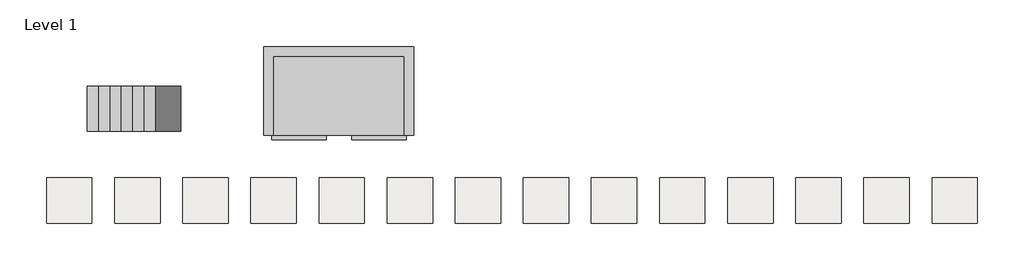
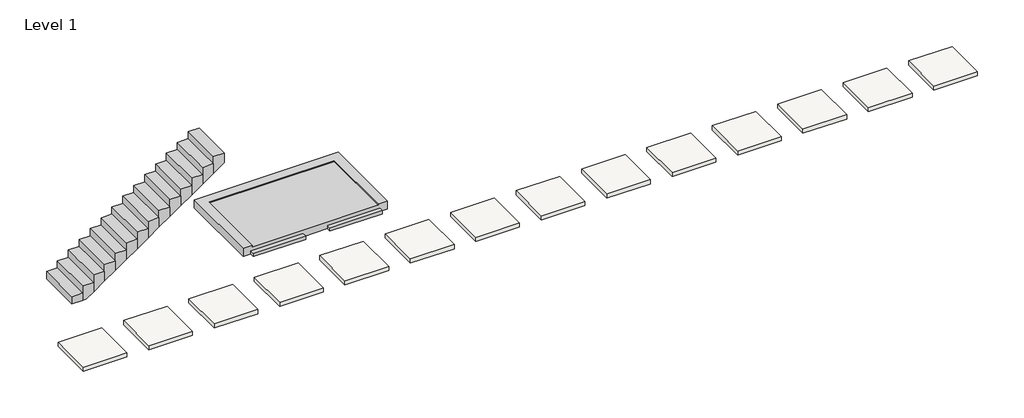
# One storey: 14 slabs, 1 proxy, 1 stair flight.
"""IFC4 building model written with IfcOpenShell, lengths in millimetres."""

from ifc_helpers import new_model, si_unit, frame, origin, place, context, project, spatial, polyline, outline, extrude, faceted_brep, transform, mapped, element, save
from components import proxy_300_24_isr_concrete_platform_double_platform_9cdc8692

model = new_model("IFC4")

# Units and contexts
model_context = context("Model", 3, world=origin())
ifc_project = project(units=[si_unit("LENGTHUNIT", "METRE", prefix="MILLI")], contexts=[model_context])

# Site, building, storey
site = spatial("IfcSite", under=ifc_project)
building = spatial("IfcBuilding", under=site)
storey = spatial("IfcBuildingStorey", under=building, Name="Level 1", Elevation=0.0)

# Proxy
placement = place(None, origin())
proxy_300_24_isr_concrete_platform_double_platform_shape = proxy_300_24_isr_concrete_platform_double_platform_9cdc8692(model_context)
element("IfcBuildingElementProxy", 1, Name="300_24_ISR_concrete_platform : double platform", ObjectType="300_24_ISR_concrete_platform : double platform", at=placement, inside=storey, context=model_context, shape_type="MappedRepresentation", body=[
    mapped(proxy_300_24_isr_concrete_platform_double_platform_shape, transform((-652.5441241, 2827.5413771, 0.0), x_axis=(1.0, 0.0, 0.0), y_axis=(0.0, 1.0, 0.0), z_axis=(0.0, 0.0, 1.0))),
])

# Slabs
element("IfcSlab", 2, ObjectType="Generic 100mm", at=placement, inside=storey, context=model_context, shape_type="SweptSolid", body=[
    extrude(outline(polyline([(-3088.5953778, 89.4387512), (-3088.5953778, -910.5612488), (-4088.5953778, -910.5612488), (-4088.5953778, 89.4387512), (-3088.5953778, 89.4387512)])), frame((0.0, 0.0, -100.0), z_axis=(0.0, 0.0, 1.0), x_axis=(1.0, 0.0, 0.0)), (0.0, 0.0, 1.0), 100.0),
])
element("IfcSlab", 3, ObjectType="Generic 100mm", at=placement, inside=storey, context=model_context, shape_type="SweptSolid", body=[
    extrude(outline(polyline([(-1588.5953778, 89.4387512), (-1588.5953778, -910.5612488), (-2588.5953778, -910.5612488), (-2588.5953778, 89.4387512), (-1588.5953778, 89.4387512)])), frame((0.0, 0.0, -100.0), z_axis=(0.0, 0.0, 1.0), x_axis=(1.0, 0.0, 0.0)), (0.0, 0.0, 1.0), 100.0),
])
element("IfcSlab", 4, ObjectType="Generic 100mm", at=placement, inside=storey, context=model_context, shape_type="SweptSolid", body=[
    extrude(outline(polyline([(-88.5953778, 89.4387512), (-88.5953778, -910.5612488), (-1088.5953778, -910.5612488), (-1088.5953778, 89.4387512), (-88.5953778, 89.4387512)])), frame((0.0, 0.0, -100.0), z_axis=(0.0, 0.0, 1.0), x_axis=(1.0, 0.0, 0.0)), (0.0, 0.0, 1.0), 100.0),
])
element("IfcSlab", 5, ObjectType="Generic 100mm", at=placement, inside=storey, context=model_context, shape_type="SweptSolid", body=[
    extrude(outline(polyline([(1411.4046222, 89.4387512), (1411.4046222, -910.5612488), (411.4046222, -910.5612488), (411.4046222, 89.4387512), (1411.4046222, 89.4387512)])), frame((0.0, 0.0, -100.0), z_axis=(0.0, 0.0, 1.0), x_axis=(1.0, 0.0, 0.0)), (0.0, 0.0, 1.0), 100.0),
])
element("IfcSlab", 6, ObjectType="Generic 100mm", at=placement, inside=storey, context=model_context, shape_type="SweptSolid", body=[
    extrude(outline(polyline([(2911.4046222, 89.4387512), (2911.4046222, -910.5612488), (1911.4046222, -910.5612488), (1911.4046222, 89.4387512), (2911.4046222, 89.4387512)])), frame((0.0, 0.0, -100.0), z_axis=(0.0, 0.0, 1.0), x_axis=(1.0, 0.0, 0.0)), (0.0, 0.0, 1.0), 100.0),
])
element("IfcSlab", 7, ObjectType="Generic 100mm", at=placement, inside=storey, context=model_context, shape_type="SweptSolid", body=[
    extrude(outline(polyline([(4411.4046222, 89.4387512), (4411.4046222, -910.5612488), (3411.4046222, -910.5612488), (3411.4046222, 89.4387512), (4411.4046222, 89.4387512)])), frame((0.0, 0.0, -100.0), z_axis=(0.0, 0.0, 1.0), x_axis=(1.0, 0.0, 0.0)), (0.0, 0.0, 1.0), 100.0),
])
element("IfcSlab", 8, ObjectType="Generic 100mm", at=placement, inside=storey, context=model_context, shape_type="SweptSolid", body=[
    extrude(outline(polyline([(5911.4046222, 89.4387512), (5911.4046222, -910.5612488), (4911.4046222, -910.5612488), (4911.4046222, 89.4387512), (5911.4046222, 89.4387512)])), frame((0.0, 0.0, -100.0), z_axis=(0.0, 0.0, 1.0), x_axis=(1.0, 0.0, 0.0)), (0.0, 0.0, 1.0), 100.0),
])
element("IfcSlab", 9, ObjectType="Generic 100mm", at=placement, inside=storey, context=model_context, shape_type="SweptSolid", body=[
    extrude(outline(polyline([(7411.4046222, 89.4387512), (7411.4046222, -910.5612488), (6411.4046222, -910.5612488), (6411.4046222, 89.4387512), (7411.4046222, 89.4387512)])), frame((0.0, 0.0, -100.0), z_axis=(0.0, 0.0, 1.0), x_axis=(1.0, 0.0, 0.0)), (0.0, 0.0, 1.0), 100.0),
])
element("IfcSlab", 10, ObjectType="Generic 100mm", at=placement, inside=storey, context=model_context, shape_type="SweptSolid", body=[
    extrude(outline(polyline([(-4588.5953778, 89.4387512), (-4588.5953778, -910.5612488), (-5588.5953778, -910.5612488), (-5588.5953778, 89.4387512), (-4588.5953778, 89.4387512)])), frame((0.0, 0.0, -100.0), z_axis=(0.0, 0.0, 1.0), x_axis=(1.0, 0.0, 0.0)), (0.0, 0.0, 1.0), 100.0),
])
element("IfcSlab", 11, ObjectType="Generic 100mm", at=placement, inside=storey, context=model_context, shape_type="SweptSolid", body=[
    extrude(outline(polyline([(8911.4046222, 89.4387512), (8911.4046222, -910.5612488), (7911.4046222, -910.5612488), (7911.4046222, 89.4387512), (8911.4046222, 89.4387512)])), frame((0.0, 0.0, -100.0), z_axis=(0.0, 0.0, 1.0), x_axis=(1.0, 0.0, 0.0)), (0.0, 0.0, 1.0), 100.0),
])
element("IfcSlab", 12, ObjectType="Generic 100mm", at=placement, inside=storey, context=model_context, shape_type="SweptSolid", body=[
    extrude(outline(polyline([(10411.4046222, 89.4387512), (10411.4046222, -910.5612488), (9411.4046222, -910.5612488), (9411.4046222, 89.4387512), (10411.4046222, 89.4387512)])), frame((0.0, 0.0, -100.0), z_axis=(0.0, 0.0, 1.0), x_axis=(1.0, 0.0, 0.0)), (0.0, 0.0, 1.0), 100.0),
])
element("IfcSlab", 13, ObjectType="Generic 100mm", at=placement, inside=storey, context=model_context, shape_type="SweptSolid", body=[
    extrude(outline(polyline([(11911.4046222, 89.4387512), (11911.4046222, -910.5612488), (10911.4046222, -910.5612488), (10911.4046222, 89.4387512), (11911.4046222, 89.4387512)])), frame((0.0, 0.0, -100.0), z_axis=(0.0, 0.0, 1.0), x_axis=(1.0, 0.0, 0.0)), (0.0, 0.0, 1.0), 100.0),
])
element("IfcSlab", 14, ObjectType="Generic 100mm", at=placement, inside=storey, context=model_context, shape_type="SweptSolid", body=[
    extrude(outline(polyline([(13411.4046222, 89.4387512), (13411.4046222, -910.5612488), (12411.4046222, -910.5612488), (12411.4046222, 89.4387512), (13411.4046222, 89.4387512)])), frame((0.0, 0.0, -100.0), z_axis=(0.0, 0.0, 1.0), x_axis=(1.0, 0.0, 0.0)), (0.0, 0.0, 1.0), 100.0),
])
element("IfcSlab", 15, ObjectType="Generic 100mm", at=placement, inside=storey, context=model_context, shape_type="SweptSolid", body=[
    extrude(outline(polyline([(14911.4046222, 89.4387512), (14911.4046222, -910.5612488), (13911.4046222, -910.5612488), (13911.4046222, 89.4387512), (14911.4046222, 89.4387512)])), frame((0.0, 0.0, -100.0), z_axis=(0.0, 0.0, 1.0), x_axis=(1.0, 0.0, 0.0)), (0.0, 0.0, 1.0), 100.0),
])

# Stair flight
element("IfcStairFlight", 16, ObjectType="190mm Depth", at=placement, inside=storey, context=model_context, shape_type="Brep", body=[
    faceted_brep([(-4438.5953778, 2107.5413771, 173.9130435), (-4688.5953778, 2107.5413771, 173.9130435), (-4688.5953778, 1107.5413771, 173.9130435), (-4438.5953778, 1107.5413771, 173.9130435), (-4438.5953778, 2107.5413771, 0.0), (-4688.5953778, 2107.5413771, 0.0), (-4688.5953778, 1107.5413771, 0.0), (-4438.5953778, 1107.5413771, 0.0), (-4188.5953778, 2107.5413771, 347.826087), (-4438.5953778, 2107.5413771, 347.826087), (-4438.5953778, 1107.5413771, 347.826087), (-4188.5953778, 1107.5413771, 347.826087), (-4188.5953778, 2107.5413771, 116.3742706), (-4355.8833918, 2107.5413771, 0.0), (-4355.8833918, 1107.5413771, 0.0), (-4188.5953778, 1107.5413771, 116.3742706), (-3938.5953778, 2107.5413771, 521.7391304), (-4188.5953778, 2107.5413771, 521.7391304), (-4188.5953778, 1107.5413771, 521.7391304), (-3938.5953778, 1107.5413771, 521.7391304), (-3938.5953778, 2107.5413771, 290.2873141), (-3938.5953778, 1107.5413771, 290.2873141), (-3688.5953778, 2107.5413771, 695.6521739), (-3938.5953778, 2107.5413771, 695.6521739), (-3938.5953778, 1107.5413771, 695.6521739), (-3688.5953778, 1107.5413771, 695.6521739), (-3688.5953778, 2107.5413771, 464.2003576), (-3688.5953778, 1107.5413771, 464.2003576), (-3438.5953778, 2107.5413771, 869.5652174), (-3688.5953778, 2107.5413771, 869.5652174), (-3688.5953778, 1107.5413771, 869.5652174), (-3438.5953778, 1107.5413771, 869.5652174), (-3438.5953778, 2107.5413771, 638.113401), (-3438.5953778, 1107.5413771, 638.113401), (-3188.5953778, 2107.5413771, 1043.4782609), (-3438.5953778, 2107.5413771, 1043.4782609), (-3438.5953778, 1107.5413771, 1043.4782609), (-3188.5953778, 1107.5413771, 1043.4782609), (-3188.5953778, 2107.5413771, 812.0264445), (-3188.5953778, 1107.5413771, 812.0264445), (-2938.5953778, 2107.5413771, 1217.3913043), (-3188.5953778, 2107.5413771, 1217.3913043), (-3188.5953778, 1107.5413771, 1217.3913043), (-2938.5953778, 1107.5413771, 1217.3913043), (-2938.5953778, 2107.5413771, 985.939488), (-2938.5953778, 1107.5413771, 985.939488), (-2688.5953778, 2107.5413771, 1391.3043478), (-2938.5953778, 2107.5413771, 1391.3043478), (-2938.5953778, 1107.5413771, 1391.3043478), (-2688.5953778, 1107.5413771, 1391.3043478), (-2688.5953778, 2107.5413771, 1159.8525315), (-2688.5953778, 1107.5413771, 1159.8525315), (-2438.5953778, 2107.5413771, 1565.2173913), (-2688.5953778, 2107.5413771, 1565.2173913), (-2688.5953778, 1107.5413771, 1565.2173913), (-2438.5953778, 1107.5413771, 1565.2173913), (-2438.5953778, 2107.5413771, 1333.765575), (-2438.5953778, 1107.5413771, 1333.765575), (-2188.5953778, 2107.5413771, 1739.1304348), (-2438.5953778, 2107.5413771, 1739.1304348), (-2438.5953778, 1107.5413771, 1739.1304348), (-2188.5953778, 1107.5413771, 1739.1304348), (-2188.5953778, 2107.5413771, 1507.6786184), (-2188.5953778, 1107.5413771, 1507.6786184), (-1938.5953778, 2107.5413771, 1913.0434783), (-2188.5953778, 2107.5413771, 1913.0434783), (-2188.5953778, 1107.5413771, 1913.0434783), (-1938.5953778, 1107.5413771, 1913.0434783), (-1938.5953778, 2107.5413771, 1681.5916619), (-1938.5953778, 1107.5413771, 1681.5916619), (-1688.5953778, 2107.5413771, 2086.9565217), (-1938.5953778, 2107.5413771, 2086.9565217), (-1938.5953778, 1107.5413771, 2086.9565217), (-1688.5953778, 1107.5413771, 2086.9565217), (-1688.5953778, 2107.5413771, 1855.5047054), (-1688.5953778, 1107.5413771, 1855.5047054), (-1438.5953778, 2107.5413771, 2260.8695652), (-1688.5953778, 2107.5413771, 2260.8695652), (-1688.5953778, 1107.5413771, 2260.8695652), (-1438.5953778, 1107.5413771, 2260.8695652), (-1438.5953778, 2107.5413771, 2029.4177489), (-1438.5953778, 1107.5413771, 2029.4177489), (-1188.5953778, 2107.5413771, 2203.3307924), (-1188.5953778, 1107.5413771, 2203.3307924), (-1188.5953778, 2107.5413771, 2434.7826087), (-1438.5953778, 2107.5413771, 2434.7826087), (-1438.5953778, 1107.5413771, 2434.7826087), (-1188.5953778, 1107.5413771, 2434.7826087)], [[[0, 1, 2, 3]], [[1, 0, 4, 5]], [[2, 1, 5, 6]], [[3, 2, 6, 7]], [[8, 9, 10, 11]], [[4, 0, 9, 8, 12, 13]], [[0, 3, 10, 9]], [[3, 7, 14, 15, 11, 10]], [[16, 17, 18, 19]], [[17, 16, 20, 12, 8]], [[8, 11, 18, 17]], [[19, 18, 11, 15, 21]], [[22, 23, 24, 25]], [[23, 22, 26, 20, 16]], [[16, 19, 24, 23]], [[25, 24, 19, 21, 27]], [[28, 29, 30, 31]], [[29, 28, 32, 26, 22]], [[22, 25, 30, 29]], [[31, 30, 25, 27, 33]], [[34, 35, 36, 37]], [[35, 34, 38, 32, 28]], [[28, 31, 36, 35]], [[37, 36, 31, 33, 39]], [[40, 41, 42, 43]], [[41, 40, 44, 38, 34]], [[34, 37, 42, 41]], [[43, 42, 37, 39, 45]], [[46, 47, 48, 49]], [[47, 46, 50, 44, 40]], [[40, 43, 48, 47]], [[49, 48, 43, 45, 51]], [[52, 53, 54, 55]], [[53, 52, 56, 50, 46]], [[46, 49, 54, 53]], [[55, 54, 49, 51, 57]], [[58, 59, 60, 61]], [[59, 58, 62, 56, 52]], [[52, 55, 60, 59]], [[61, 60, 55, 57, 63]], [[64, 65, 66, 67]], [[65, 64, 68, 62, 58]], [[58, 61, 66, 65]], [[67, 66, 61, 63, 69]], [[70, 71, 72, 73]], [[71, 70, 74, 68, 64]], [[64, 67, 72, 71]], [[73, 72, 67, 69, 75]], [[76, 77, 78, 79]], [[77, 76, 80, 74, 70]], [[70, 73, 78, 77]], [[79, 78, 73, 75, 81]], [[5, 4, 13, 14, 7, 6]], [[14, 13, 12, 20, 26, 32, 38, 44, 50, 56, 62, 68, 74, 80, 82, 83, 81, 75, 69, 63, 57, 51, 45, 39, 33, 27, 21, 15]], [[84, 85, 86, 87]], [[85, 84, 82, 80, 76]], [[76, 79, 86, 85]], [[87, 86, 79, 81, 83]], [[84, 87, 83, 82]]]),
])

save(model, "model.ifc")
